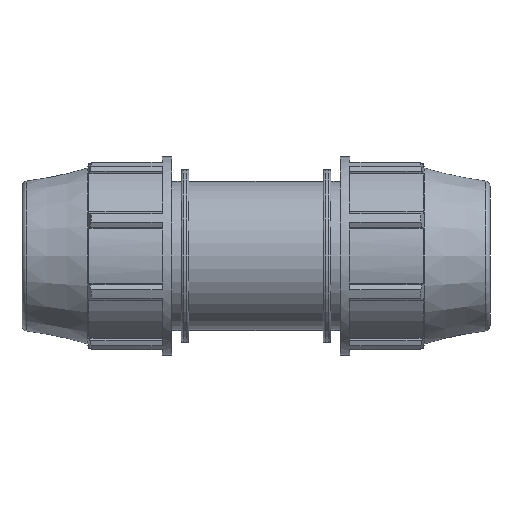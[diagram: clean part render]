
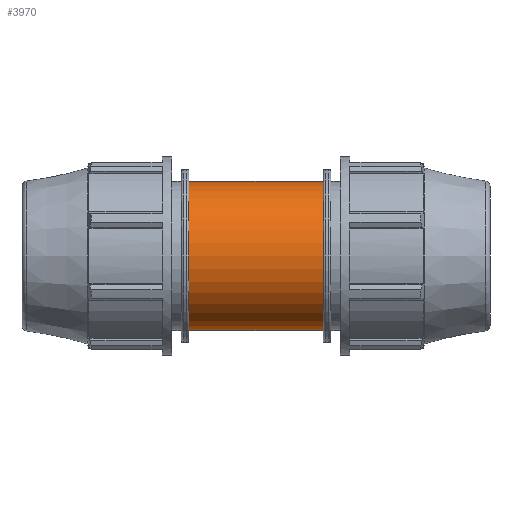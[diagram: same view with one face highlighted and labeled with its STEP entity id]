
A CAD part, front view. The second image highlights one B-rep face of the part: STEP entity #3970.
In plain terms, the highlighted cylindrical face has radius 42.386 mm (diameter 84.772 mm), a full revolution.
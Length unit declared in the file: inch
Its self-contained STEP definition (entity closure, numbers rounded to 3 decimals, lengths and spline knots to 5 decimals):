
#83=FACE_BOUND('',#442,.T.);
#240=FACE_OUTER_BOUND('',#441,.T.);
#441=EDGE_LOOP('',(#2544,#2545,#2546,#2547,#2548,#2549));
#442=EDGE_LOOP('',(#2550,#2551));
#658=B_SPLINE_CURVE_WITH_KNOTS('',3,(#5819,#5820,#5821,#5822,#5823,#5824,
#5825,#5826,#5827,#5828,#5829,#5830,#5831,#5832,#5833,#5834,#5835,#5836),
 .UNSPECIFIED.,.F.,.F.,(4,2,2,2,2,2,2,2,4),(0.,0.61544,1.23089,
1.84633,2.46178,3.06649,3.6712,4.2759,
4.88061),.UNSPECIFIED.);
#659=B_SPLINE_CURVE_WITH_KNOTS('',3,(#5837,#5838,#5839,#5840,#5841,#5842,
#5843,#5844,#5845,#5846,#5847,#5848,#5849,#5850,#5851,#5852,#5853,#5854,
#5855,#5856,#5857,#5858,#5859,#5860,#5861,#5862,#5863,#5864,#5865,#5866,
#5867,#5868,#5869,#5870,#5871,#5872,#5873,#5874,#5875,#5876,#5877,#5878,
#5879,#5880,#5881,#5882,#5883,#5884,#5885,#5886),.UNSPECIFIED.,.F.,.F.,
(4,2,2,2,2,2,2,2,2,2,2,2,2,2,2,2,2,2,2,2,2,2,2,2,4),(4.88061,5.48532,
6.09003,6.69474,7.29945,7.9149,8.53034,
9.14579,9.76123,10.37667,10.99212,11.60756,
12.22301,12.82771,13.43242,14.03713,14.64184,
15.24655,15.85126,16.45597,17.06068,17.67613,
18.29157,18.90702,19.52246),.UNSPECIFIED.);
#671=LINE('',#5813,#992);
#992=VECTOR('',#4631,1.66875);
#1315=CIRCLE('',#4197,1.66875);
#1316=CIRCLE('',#4198,1.66875);
#1317=CIRCLE('',#4199,1.66875);
#1318=CIRCLE('',#4200,1.66875);
#1533=VERTEX_POINT('',#5808);
#1534=VERTEX_POINT('',#5809);
#1535=VERTEX_POINT('',#5812);
#1536=VERTEX_POINT('',#5814);
#1537=VERTEX_POINT('',#5817);
#1538=VERTEX_POINT('',#5818);
#1945=EDGE_CURVE('',#1533,#1534,#1315,.T.);
#1946=EDGE_CURVE('',#1534,#1533,#1316,.T.);
#1947=EDGE_CURVE('',#1534,#1535,#671,.T.);
#1948=EDGE_CURVE('',#1535,#1536,#1317,.T.);
#1949=EDGE_CURVE('',#1536,#1535,#1318,.T.);
#1950=EDGE_CURVE('',#1537,#1538,#658,.T.);
#1951=EDGE_CURVE('',#1538,#1537,#659,.T.);
#2544=ORIENTED_EDGE('',*,*,#1945,.F.);
#2545=ORIENTED_EDGE('',*,*,#1946,.F.);
#2546=ORIENTED_EDGE('',*,*,#1947,.T.);
#2547=ORIENTED_EDGE('',*,*,#1948,.T.);
#2548=ORIENTED_EDGE('',*,*,#1949,.T.);
#2549=ORIENTED_EDGE('',*,*,#1947,.F.);
#2550=ORIENTED_EDGE('',*,*,#1950,.F.);
#2551=ORIENTED_EDGE('',*,*,#1951,.F.);
#3725=CYLINDRICAL_SURFACE('',#4196,1.66875);
#3970=ADVANCED_FACE('',(#240,#83),#3725,.T.);
#4196=AXIS2_PLACEMENT_3D('',#5807,#4625,#4626);
#4197=AXIS2_PLACEMENT_3D('',#5810,#4627,#4628);
#4198=AXIS2_PLACEMENT_3D('',#5811,#4629,#4630);
#4199=AXIS2_PLACEMENT_3D('',#5815,#4632,#4633);
#4200=AXIS2_PLACEMENT_3D('',#5816,#4634,#4635);
#4625=DIRECTION('center_axis',(1.,0.,0.));
#4626=DIRECTION('ref_axis',(0.,1.,0.));
#4627=DIRECTION('center_axis',(1.,0.,0.));
#4628=DIRECTION('ref_axis',(0.,0.,-1.));
#4629=DIRECTION('center_axis',(1.,0.,0.));
#4630=DIRECTION('ref_axis',(0.,0.,-1.));
#4631=DIRECTION('',(-1.,0.,0.));
#4632=DIRECTION('center_axis',(1.,0.,0.));
#4633=DIRECTION('ref_axis',(0.,0.,-1.));
#4634=DIRECTION('center_axis',(1.,0.,0.));
#4635=DIRECTION('ref_axis',(0.,0.,-1.));
#5807=CARTESIAN_POINT('Origin',(1.06445,0.,0.));
#5808=CARTESIAN_POINT('',(1.5007,1.66875,0.));
#5809=CARTESIAN_POINT('',(1.5007,-1.66875,0.));
#5810=CARTESIAN_POINT('Origin',(1.5007,0.,0.));
#5811=CARTESIAN_POINT('Origin',(1.5007,0.,0.));
#5812=CARTESIAN_POINT('',(-1.5007,-1.66875,0.));
#5813=CARTESIAN_POINT('',(1.06445,-1.66875,0.));
#5814=CARTESIAN_POINT('',(-1.5007,1.66875,0.));
#5815=CARTESIAN_POINT('Origin',(-1.5007,0.,0.));
#5816=CARTESIAN_POINT('Origin',(-1.5007,0.,0.));
#5817=CARTESIAN_POINT('',(0.,1.14787,1.21125));
#5818=CARTESIAN_POINT('',(1.21125,1.66875,0.));
#5819=CARTESIAN_POINT('Ctrl Pts',(0.,1.14787,1.21125));
#5820=CARTESIAN_POINT('Ctrl Pts',(0.08077,1.14787,1.21125));
#5821=CARTESIAN_POINT('Ctrl Pts',(0.16217,1.15666,1.20308));
#5822=CARTESIAN_POINT('Ctrl Pts',(0.32108,1.18939,1.17073));
#5823=CARTESIAN_POINT('Ctrl Pts',(0.39862,1.2132,1.14657));
#5824=CARTESIAN_POINT('Ctrl Pts',(0.54583,1.26921,1.08424));
#5825=CARTESIAN_POINT('Ctrl Pts',(0.61567,1.30137,1.04602));
#5826=CARTESIAN_POINT('Ctrl Pts',(0.74469,1.36715,0.95846));
#5827=CARTESIAN_POINT('Ctrl Pts',(0.80388,1.40073,0.90908));
#5828=CARTESIAN_POINT('Ctrl Pts',(0.90817,1.4631,0.8048));
#5829=CARTESIAN_POINT('Ctrl Pts',(0.95735,1.49433,0.74612));
#5830=CARTESIAN_POINT('Ctrl Pts',(1.04518,1.55207,0.6171));
#5831=CARTESIAN_POINT('Ctrl Pts',(1.08384,1.57854,0.54674));
#5832=CARTESIAN_POINT('Ctrl Pts',(1.14676,1.62239,0.39821));
#5833=CARTESIAN_POINT('Ctrl Pts',(1.17107,1.63978,0.31989));
#5834=CARTESIAN_POINT('Ctrl Pts',(1.20333,1.66297,0.16046));
#5835=CARTESIAN_POINT('Ctrl Pts',(1.21125,1.66875,0.07936));
#5836=CARTESIAN_POINT('Ctrl Pts',(1.21125,1.66875,0.));
#5837=CARTESIAN_POINT('Ctrl Pts',(1.21125,1.66875,0.));
#5838=CARTESIAN_POINT('Ctrl Pts',(1.21125,1.66875,-0.07936));
#5839=CARTESIAN_POINT('Ctrl Pts',(1.20333,1.66297,-0.16046));
#5840=CARTESIAN_POINT('Ctrl Pts',(1.17107,1.63978,-0.31989));
#5841=CARTESIAN_POINT('Ctrl Pts',(1.14676,1.62239,-0.39821));
#5842=CARTESIAN_POINT('Ctrl Pts',(1.08384,1.57854,-0.54674));
#5843=CARTESIAN_POINT('Ctrl Pts',(1.04518,1.55207,-0.6171));
#5844=CARTESIAN_POINT('Ctrl Pts',(0.95735,1.49433,-0.74612));
#5845=CARTESIAN_POINT('Ctrl Pts',(0.90817,1.4631,-0.8048));
#5846=CARTESIAN_POINT('Ctrl Pts',(0.80388,1.40073,-0.90908));
#5847=CARTESIAN_POINT('Ctrl Pts',(0.74469,1.36715,-0.95846));
#5848=CARTESIAN_POINT('Ctrl Pts',(0.61567,1.30137,-1.04602));
#5849=CARTESIAN_POINT('Ctrl Pts',(0.54583,1.26921,-1.08424));
#5850=CARTESIAN_POINT('Ctrl Pts',(0.39862,1.2132,-1.14657));
#5851=CARTESIAN_POINT('Ctrl Pts',(0.32108,1.18939,-1.17073));
#5852=CARTESIAN_POINT('Ctrl Pts',(0.16217,1.15666,-1.20308));
#5853=CARTESIAN_POINT('Ctrl Pts',(0.08077,1.14787,-1.21125));
#5854=CARTESIAN_POINT('Ctrl Pts',(-0.08077,1.14787,
-1.21125));
#5855=CARTESIAN_POINT('Ctrl Pts',(-0.16217,1.15666,-1.20308));
#5856=CARTESIAN_POINT('Ctrl Pts',(-0.32108,1.18939,-1.17073));
#5857=CARTESIAN_POINT('Ctrl Pts',(-0.39862,1.2132,-1.14657));
#5858=CARTESIAN_POINT('Ctrl Pts',(-0.54583,1.26921,-1.08424));
#5859=CARTESIAN_POINT('Ctrl Pts',(-0.61567,1.30137,-1.04602));
#5860=CARTESIAN_POINT('Ctrl Pts',(-0.74469,1.36715,-0.95846));
#5861=CARTESIAN_POINT('Ctrl Pts',(-0.80388,1.40073,-0.90908));
#5862=CARTESIAN_POINT('Ctrl Pts',(-0.90817,1.4631,-0.8048));
#5863=CARTESIAN_POINT('Ctrl Pts',(-0.95735,1.49433,-0.74612));
#5864=CARTESIAN_POINT('Ctrl Pts',(-1.04518,1.55207,-0.6171));
#5865=CARTESIAN_POINT('Ctrl Pts',(-1.08384,1.57854,-0.54674));
#5866=CARTESIAN_POINT('Ctrl Pts',(-1.14676,1.62239,-0.39821));
#5867=CARTESIAN_POINT('Ctrl Pts',(-1.17107,1.63978,-0.31989));
#5868=CARTESIAN_POINT('Ctrl Pts',(-1.20333,1.66297,-0.16046));
#5869=CARTESIAN_POINT('Ctrl Pts',(-1.21125,1.66875,-0.07936));
#5870=CARTESIAN_POINT('Ctrl Pts',(-1.21125,1.66875,0.07936));
#5871=CARTESIAN_POINT('Ctrl Pts',(-1.20333,1.66297,0.16046));
#5872=CARTESIAN_POINT('Ctrl Pts',(-1.17107,1.63978,0.31989));
#5873=CARTESIAN_POINT('Ctrl Pts',(-1.14676,1.62239,0.39821));
#5874=CARTESIAN_POINT('Ctrl Pts',(-1.08384,1.57854,0.54674));
#5875=CARTESIAN_POINT('Ctrl Pts',(-1.04518,1.55207,0.6171));
#5876=CARTESIAN_POINT('Ctrl Pts',(-0.95735,1.49433,0.74612));
#5877=CARTESIAN_POINT('Ctrl Pts',(-0.90817,1.4631,0.8048));
#5878=CARTESIAN_POINT('Ctrl Pts',(-0.80388,1.40073,0.90908));
#5879=CARTESIAN_POINT('Ctrl Pts',(-0.74469,1.36715,0.95846));
#5880=CARTESIAN_POINT('Ctrl Pts',(-0.61567,1.30137,1.04602));
#5881=CARTESIAN_POINT('Ctrl Pts',(-0.54583,1.26921,1.08424));
#5882=CARTESIAN_POINT('Ctrl Pts',(-0.39862,1.2132,1.14657));
#5883=CARTESIAN_POINT('Ctrl Pts',(-0.32108,1.18939,1.17073));
#5884=CARTESIAN_POINT('Ctrl Pts',(-0.16217,1.15666,1.20308));
#5885=CARTESIAN_POINT('Ctrl Pts',(-0.08077,1.14787,
1.21125));
#5886=CARTESIAN_POINT('Ctrl Pts',(0.,1.14787,
1.21125));
